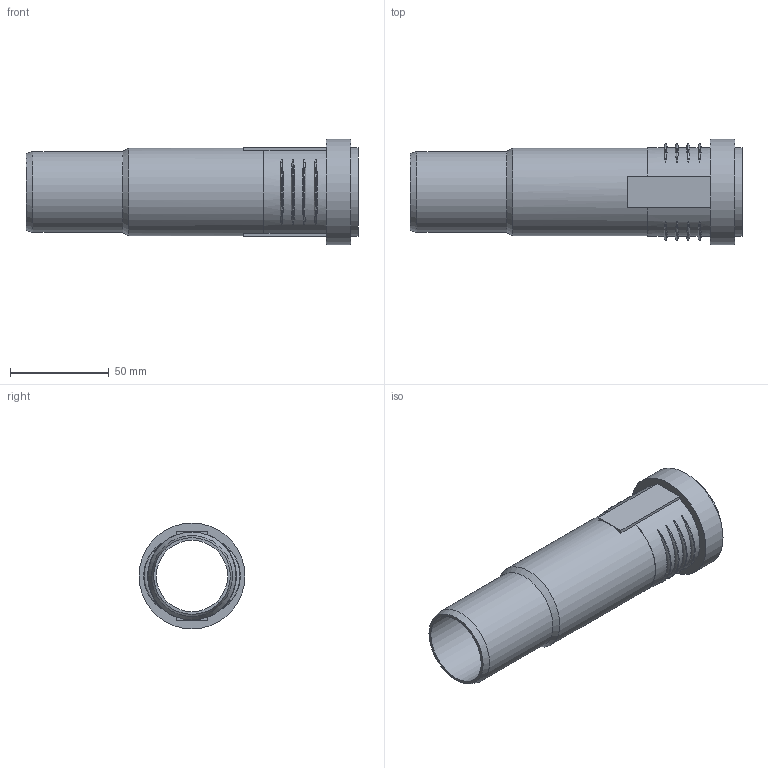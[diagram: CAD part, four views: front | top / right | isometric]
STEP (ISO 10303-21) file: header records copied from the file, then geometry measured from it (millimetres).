
FILE_DESCRIPTION(/* description */ (''),/* implementation_level */ '2;1');
FILE_NAME(/* name */ 'Z:\Geberit\Export\NewStep\390118.stp',/* time_stamp */ '2014-04-02T08:08:54+02:00',/* author */ ('ML'),/* organization */ (''),/* preprocessor_version */ 'ST-DEVELOPER v15.2',/* originating_system */ 'Autodesk Inventor 2014',/* authorisation */ '');
FILE_SCHEMA (('AUTOMOTIVE_DESIGN { 1 0 10303 214 3 1 1 }'));
Length unit declared in the file: millimetre
Products named in the file (1): 390118
Bounding box: 168.4 x 53.7 x 53.7 mm (x, y, z)
Volume: 48188.9 mm3; surface area: 48655.2 mm2
Topology: 1 solids, 1 shells, 53 faces, 128 edges, 89 vertices
Faces by surface type: torus 24, plane 16, cylinder 10, cone 3
Full cylindrical faces by diameter (mm): 36.15 x1, 41 x3, 44.6 x1, 45 x1, 50.1 x1, 53.7 x1
Entity records: 2112 total; most frequent: CARTESIAN_POINT 882, ORIENTED_EDGE 232, DIRECTION 216, EDGE_CURVE 116, AXIS2_PLACEMENT_3D 94, VERTEX_POINT 88, EDGE_LOOP 78, STYLED_ITEM 54
